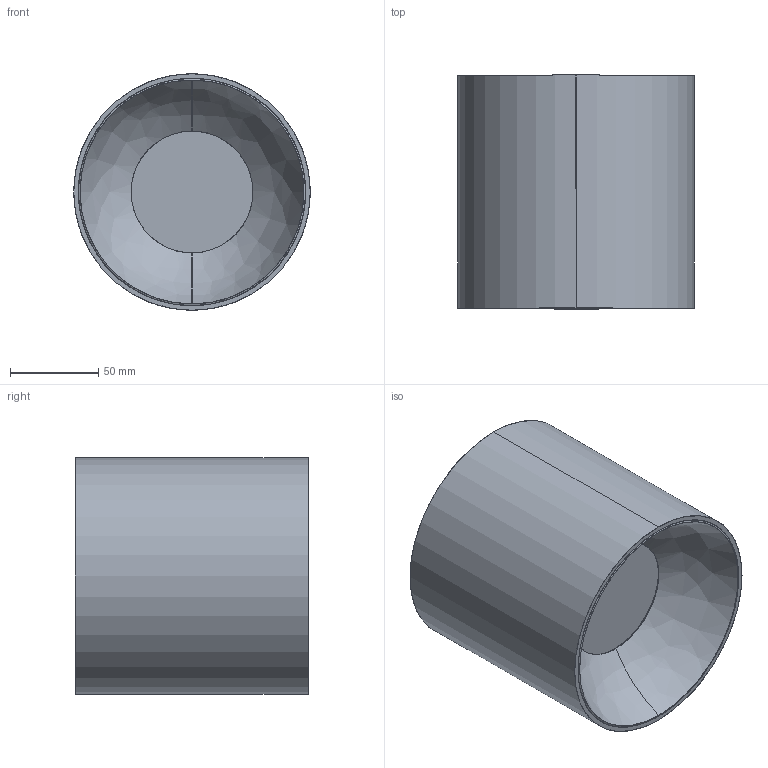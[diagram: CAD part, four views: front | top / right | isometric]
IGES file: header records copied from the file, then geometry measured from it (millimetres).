
Start section: SolidWorks IGES file using analytic representation for surfaces
Global section: file name: F:\GABRYSIA\MODELE 3D\OPRAWY\CL-IOS-LED-8727-8728-8732-8733-8730-8731-8734-8735-WWW\CL-IOS-LED-8727-8728-8732-8733-8730-8731-8734-8735.IGS; native system: SolidWorks 2017; preprocessor: SolidWorks 2017; author: Togambi; date: 200917.140918; units: millimetre
Bounding box: 134 x 132.35 x 134 mm (x, y, z)
Surface area: 178313.7 mm2 (no closed solid volume)
Topology: 0 solids, 0 shells, 105 faces, 1922 edges, 1919 vertices
Faces by surface type: bspline 67, revolution 38
